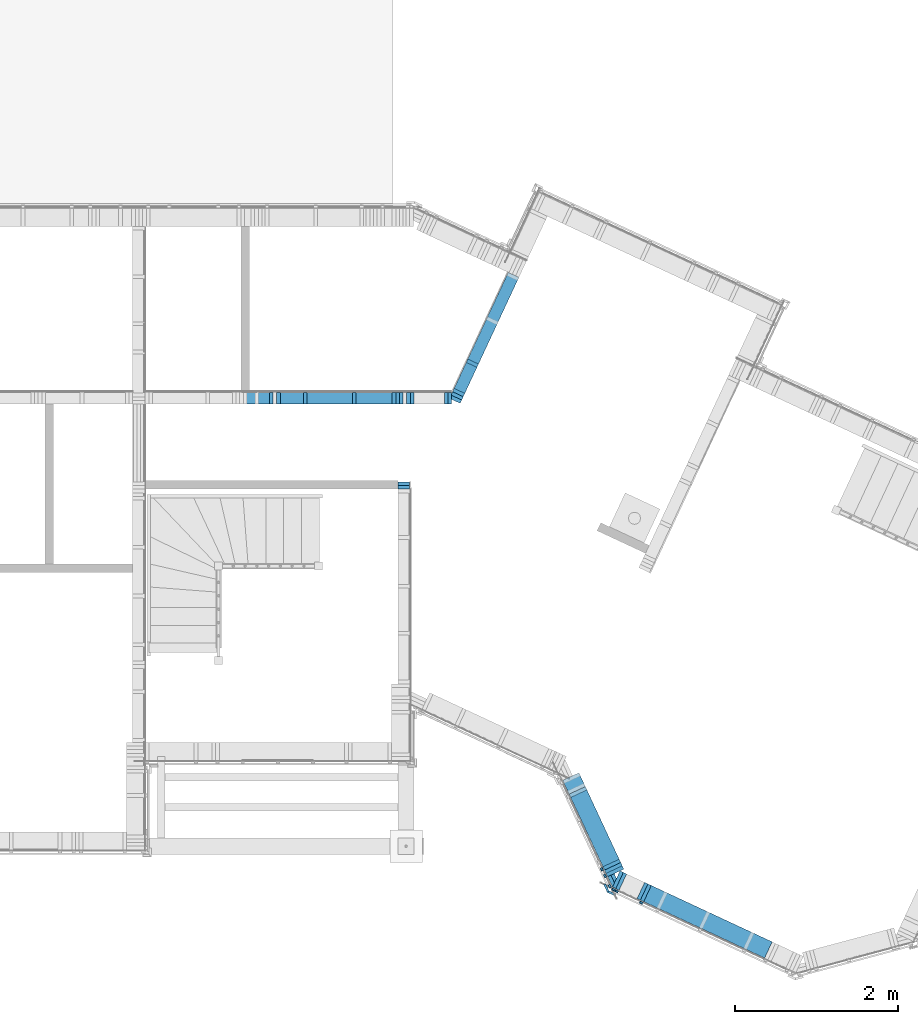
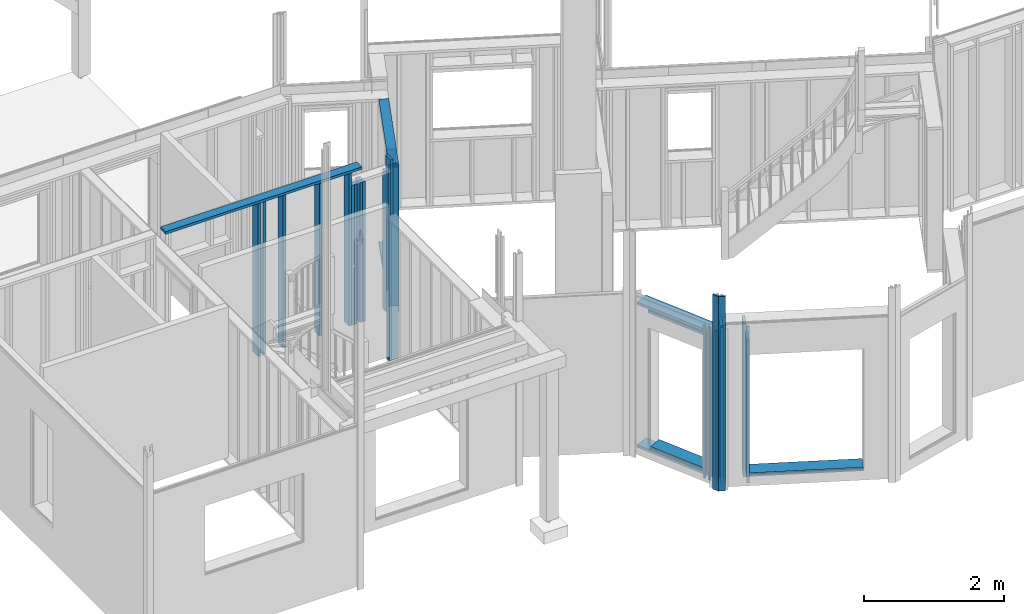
# One storey, part 8 of 34: 45 members.
"""IFC2X3 building model written with IfcOpenShell, lengths in metres."""

from ifc_helpers import new_model, si_unit, direction, frame, origin_with_axes, place, context, subcontext, project, spatial, faceted_brep, material, element, save


model = new_model("IFC2X3")

# Units and contexts
model_context = context("Model", 3, precision=1e-06, world=origin_with_axes(), true_north=direction((0.0, 1.0, 0.0)))
body_context = subcontext(model_context, "Body", "Model", "MODEL_VIEW")
ifc_project = project(units=[si_unit("LENGTHUNIT", "METRE"), si_unit("AREAUNIT", "SQUARE_METRE"), si_unit("VOLUMEUNIT", "CUBIC_METRE"), si_unit("PLANEANGLEUNIT", "RADIAN")], contexts=[model_context])

# Site, building, storey
site_placement = place(None, origin_with_axes())
site = spatial("IfcSite", under=ifc_project, at=site_placement, CompositionType="ELEMENT")
building_placement = place(site_placement, origin_with_axes())
building = spatial("IfcBuilding", under=site, at=building_placement, Name="Building 1", CompositionType="ELEMENT")
storey_placement = place(building_placement, origin_with_axes())
storey = spatial("IfcBuildingStorey", under=building, at=storey_placement, Name="Rez de chaussée", CompositionType="ELEMENT", Elevation=0.0)

# Members
ifc_material_1 = material(Name="Epicéa C24")
member_1_placement = place(storey_placement, frame((6.6235, 4.4675, 2.52), z_axis=(1.0, 0.0, 0.0), x_axis=(0.0, 0.0, -1.0)))
element("IfcMember", 1, at=member_1_placement, inside=storey, material=ifc_material_1, Name="Montant", context=body_context, shape_type="Brep", body=[
    faceted_brep([(2.43, -0.0225, 0.0725), (2.43, 0.0225, 0.0725), (0.0, 0.0225, 0.0725), (0.0, -0.0225, 0.0725), (2.43, -0.0225, -0.0725), (2.43, 0.0225, -0.0725), (0.0, -0.0225, -0.0725), (0.0, 0.0225, -0.0725)], [[[0, 1, 2, 3]], [[4, 5, 1, 0]], [[4, 0, 3, 6]], [[5, 4, 6, 7]], [[1, 5, 7, 2]], [[3, 2, 7, 6]]]),
])
member_2_placement = place(storey_placement, frame((9.0592888, -0.227681, 2.675), z_axis=(-0.9063078, -0.4226183, 0.0), x_axis=(0.0, 0.0, -1.0)))
element("IfcMember", 2, at=member_2_placement, inside=storey, material=ifc_material_1, Name="latte 27/40", context=body_context, shape_type="Brep", body=[
    faceted_brep([(2.67, 0.02, -0.012), (2.67, 0.02, 0.012), (2.67, -0.02, 0.012), (2.67, -0.02, -0.012), (0.0, 0.02, 0.012), (0.0, 0.02, -0.012), (0.0, -0.02, -0.012), (0.0, -0.02, 0.012)], [[[0, 1, 2, 3]], [[4, 5, 6, 7]], [[3, 6, 5, 0]], [[2, 7, 6, 3]], [[1, 4, 7, 2]], [[0, 5, 4, 1]]]),
])
member_3_placement = place(storey_placement, frame((7.2992216, 5.6318983, 2.54), z_axis=(-0.9063078, 0.4226183, 0.0), x_axis=(0.0, 0.0, -1.0)))
element("IfcMember", 3, at=member_3_placement, inside=storey, material=ifc_material_1, Name="Montant", context=body_context, shape_type="Brep", body=[
    faceted_brep([(2.45, -0.0225, -0.0725), (2.45, 0.0225, -0.0725), (2.45, 0.0225, 0.0725), (2.45, -0.0225, 0.0725), (0.0, 0.0225, -0.0725), (0.0, 0.0225, 0.0725), (0.0, -0.0225, -0.0725), (0.0, -0.0225, 0.0725)], [[[0, 1, 2, 3]], [[2, 1, 4, 5]], [[1, 0, 6, 4]], [[0, 3, 7, 6]], [[3, 2, 5, 7]], [[7, 5, 4, 6]]]),
])
member_4_placement = place(storey_placement, frame((8.6768508, 0.9118972, 0.0675), z_axis=(0.9063078, 0.4226183, 0.0), x_axis=(0.4226183, -0.9063078, 0.0)))
element("IfcMember", 4, at=member_4_placement, inside=storey, material=ifc_material_1, Name="Lisse basse", context=body_context, shape_type="Brep", body=[
    faceted_brep([(0.0, -0.0225, -0.11), (1.3069339, -0.0225, -0.11), (1.3069339, -0.0225, 0.11), (0.0, -0.0225, 0.11), (0.0, 0.0225, -0.11), (1.3069339, 0.0225, -0.11), (1.3069339, 0.0225, 0.11), (0.0, 0.0225, 0.11)], [[[0, 1, 2, 3]], [[4, 5, 1, 0]], [[6, 2, 1, 5]], [[7, 6, 5, 4]], [[3, 2, 6, 7]], [[3, 7, 4, 0]]]),
])
member_5_placement = place(storey_placement, frame((7.9737704, 7.0784729, 0.0675), z_axis=(0.9063078, -0.4226183, 0.0), x_axis=(-0.4226183, -0.9063078, 0.0)))
element("IfcMember", 5, at=member_5_placement, inside=storey, material=ifc_material_1, Name="Lisse basse", context=body_context, shape_type="Brep", body=[
    faceted_brep([(0.0, 0.0225, -0.0725), (1.6186186, 0.0225, -0.0725), (1.6186186, -0.0225, -0.0725), (0.0, -0.0225, -0.0725), (1.6186186, 0.0225, 0.0725), (1.6186186, -0.0225, 0.0725), (0.0, -0.0225, 0.0725), (0.0, 0.0225, 0.0725)], [[[0, 1, 2, 3]], [[4, 5, 2, 1]], [[5, 6, 3, 2]], [[7, 4, 1, 0]], [[6, 5, 4, 7]], [[6, 7, 0, 3]]]),
])
ifc_material_2 = material(Name="NH II")
member_6_placement = place(storey_placement, frame((9.17858, -0.5211529, -0.08), z_axis=(0.9063078, -0.4226183, 0.0), x_axis=(0.0, 0.0, 1.0)))
element("IfcMember", 6, at=member_6_placement, inside=storey, material=ifc_material_2, Name="Couvre joint", context=body_context, shape_type="Brep", body=[
    faceted_brep([(0.0, -0.0135, -0.0426728), (0.0, 0.0135, -0.0525), (3.4036496, 0.0135, -0.0525), (3.4036496, -0.0135, -0.0426728), (0.0, -0.0135, 0.0525), (0.0, 0.0135, 0.0525), (3.4036496, 0.0135, 0.0525), (3.4036496, -0.0135, 0.0525)], [[[0, 1, 2, 3]], [[1, 0, 4, 5]], [[3, 2, 6, 7]], [[0, 3, 7, 4]], [[6, 5, 4, 7]], [[2, 1, 5, 6]]]),
])
member_7_placement = place(storey_placement, frame((11.1063082, -1.2198042, 0.1125), z_axis=(-0.4226183, -0.9063078, 0.0), x_axis=(-0.9063078, 0.4226183, 0.0)))
element("IfcMember", 7, at=member_7_placement, inside=storey, material=ifc_material_1, Name="Montant", context=body_context, shape_type="Brep", body=[
    faceted_brep([(0.0, -0.0225, 0.11), (1.64, -0.0225, 0.11), (1.64, 0.0225, 0.11), (0.0, 0.0225, 0.11), (1.64, -0.0225, -0.11), (1.64, 0.0225, -0.11), (0.0, -0.0225, -0.11), (0.0, 0.0225, -0.11)], [[[0, 1, 2, 3]], [[1, 4, 5, 2]], [[5, 4, 6, 7]], [[4, 1, 0, 6]], [[7, 6, 0, 3]], [[2, 5, 7, 3]]]),
])
member_8_placement = place(storey_placement, frame((6.5035, 5.5627176, 2.76), z_axis=(0.0, 1.0, 0.0), x_axis=(0.0, 0.0, -1.0)))
element("IfcMember", 8, at=member_8_placement, inside=storey, material=ifc_material_1, Name="Montant", context=body_context, shape_type="Brep", body=[
    faceted_brep([(2.67, -0.0225, -0.0725), (2.67, 0.0225, -0.0725), (2.67, 0.0225, 0.0725), (2.67, -0.0225, 0.0725), (0.0, -0.0225, 0.0725), (0.0, -0.0225, -0.0725), (0.0, 0.0225, -0.0725), (0.0, 0.0225, 0.0725)], [[[0, 1, 2, 3]], [[0, 3, 4, 5]], [[1, 0, 5, 6]], [[2, 1, 6, 7]], [[3, 2, 7, 4]], [[4, 7, 6, 5]]]),
])
member_9_placement = place(storey_placement, frame((6.5485, 5.5627176, 2.54), z_axis=(0.0, 1.0, 0.0), x_axis=(0.0, 0.0, -1.0)))
element("IfcMember", 9, at=member_9_placement, inside=storey, material=ifc_material_1, Name="Montant", context=body_context, shape_type="Brep", body=[
    faceted_brep([(2.45, -0.0225, -0.0725), (2.45, 0.0225, -0.0725), (2.45, 0.0225, 0.0725), (2.45, -0.0225, 0.0725), (0.0, -0.0225, 0.0725), (0.0, -0.0225, -0.0725), (0.0, 0.0225, -0.0725), (0.0, 0.0225, 0.0725)], [[[0, 1, 2, 3]], [[0, 3, 4, 5]], [[1, 0, 5, 6]], [[2, 1, 6, 7]], [[3, 2, 7, 4]], [[4, 7, 6, 5]]]),
])
member_10_placement = place(storey_placement, frame((9.1153411, -0.4579141, -0.08), z_axis=(0.4226183, -0.9063078, 0.0), x_axis=(0.0, 0.0, 1.0)))
element("IfcMember", 10, at=member_10_placement, inside=storey, material=ifc_material_2, Name="Couvre joint", context=body_context, shape_type="Brep", body=[
    faceted_brep([(0.0, 0.0135, 0.0525), (0.0, -0.0135, 0.0426728), (3.4036496, -0.0135, 0.0426728), (3.4036496, 0.0135, 0.0525), (3.4036496, -0.0135, -0.0525), (3.4036496, 0.0135, -0.0525), (0.0, -0.0135, -0.0525), (0.0, 0.0135, -0.0525)], [[[0, 1, 2, 3]], [[3, 2, 4, 5]], [[2, 1, 6, 4]], [[1, 0, 7, 6]], [[4, 6, 7, 5]], [[5, 7, 0, 3]]]),
])
member_11_placement = place(storey_placement, frame((9.2398652, -0.4984236, 2.745), z_axis=(-0.4226183, -0.9063078, 0.0), x_axis=(0.0, 0.0, -1.0)))
element("IfcMember", 11, at=member_11_placement, inside=storey, material=ifc_material_1, Name="latte 27/40", context=body_context, shape_type="Brep", body=[
    faceted_brep([(0.0, 0.02, 0.012), (0.0, -0.02, 0.012), (2.74, -0.02, 0.012), (2.74, 0.02, 0.012), (2.74, -0.02, -0.012), (2.74, 0.02, -0.012), (0.0, -0.02, -0.012), (0.0, 0.02, -0.012)], [[[0, 1, 2, 3]], [[3, 2, 4, 5]], [[2, 1, 6, 4]], [[1, 0, 7, 6]], [[0, 3, 5, 7]], [[6, 7, 5, 4]]]),
])
member_12_placement = place(storey_placement, frame((7.4674738, 5.9927162, 2.54), z_axis=(-0.9063078, 0.4226183, 0.0), x_axis=(0.0, 0.0, -1.0)))
element("IfcMember", 12, at=member_12_placement, inside=storey, material=ifc_material_1, Name="Montant", context=body_context, shape_type="Brep", body=[
    faceted_brep([(2.45, -0.0225, -0.0725), (2.45, 0.0225, -0.0725), (2.45, 0.0225, 0.0725), (2.45, -0.0225, 0.0725), (0.0, 0.0225, -0.0725), (0.0, 0.0225, 0.0725), (0.0, -0.0225, -0.0725), (0.0, -0.0225, 0.0725)], [[[0, 1, 2, 3]], [[2, 1, 4, 5]], [[1, 0, 6, 4]], [[0, 3, 7, 6]], [[3, 2, 5, 7]], [[7, 5, 4, 6]]]),
])
member_13_placement = place(storey_placement, frame((7.265257, 5.5484322, 0.045), z_axis=(-0.9063078, 0.4226183, 0.0), x_axis=(0.0, 0.0, 1.0)))
element("IfcMember", 13, at=member_13_placement, inside=storey, material=ifc_material_1, Name="Montant", context=body_context, shape_type="Brep", body=[
    faceted_brep([(2.54, -0.0225, 0.0470242), (0.0, -0.0225, 0.0470242), (0.0, -0.0225, -0.0680081), (2.54, -0.0225, -0.0680081), (0.0, 0.0225, -0.0680081), (2.54, 0.0225, -0.0680081), (0.0, 0.0225, 0.0680081), (2.54, 0.0225, 0.0680081)], [[[0, 1, 2, 3]], [[2, 4, 5, 3]], [[6, 7, 5, 4]], [[7, 0, 3, 5]], [[6, 1, 0, 7]], [[1, 6, 4, 2]]]),
])
member_14_placement = place(storey_placement, frame((9.542518, -0.6395529, 2.745), z_axis=(-0.4226183, -0.9063078, 0.0), x_axis=(0.0, 0.0, -1.0)))
element("IfcMember", 14, at=member_14_placement, inside=storey, material=ifc_material_1, Name="latte 27/40", context=body_context, shape_type="Brep", body=[
    faceted_brep([(0.0, 0.02, 0.012), (0.0, -0.02, 0.012), (2.74, -0.02, 0.012), (2.74, 0.02, 0.012), (2.74, -0.02, -0.012), (2.74, 0.02, -0.012), (0.0, -0.02, -0.012), (0.0, 0.02, -0.012)], [[[0, 1, 2, 3]], [[3, 2, 4, 5]], [[2, 1, 6, 4]], [[1, 0, 7, 6]], [[0, 3, 5, 7]], [[6, 7, 5, 4]]]),
])
member_15_placement = place(storey_placement, frame((9.5587876, -0.4981835, 2.76), z_axis=(-0.4226183, -0.9063078, 0.0), x_axis=(0.0, 0.0, -1.0)))
element("IfcMember", 15, at=member_15_placement, inside=storey, material=ifc_material_1, Name="Montant", context=body_context, shape_type="Brep", body=[
    faceted_brep([(2.67, -0.0225, -0.11), (2.67, 0.0225, -0.11), (2.67, 0.0225, 0.11), (2.67, -0.0225, 0.11), (0.0, -0.0225, -0.11), (0.0, -0.0225, 0.11), (0.0, 0.0225, -0.11), (0.0, 0.0225, 0.11)], [[[0, 1, 2, 3]], [[4, 0, 3, 5]], [[1, 0, 4, 6]], [[2, 1, 6, 7]], [[3, 2, 7, 5]], [[5, 7, 6, 4]]]),
])
member_16_placement = place(storey_placement, frame((11.1063082, -1.2198042, 0.1435), z_axis=(-0.4226183, -0.9063078, 0.0), x_axis=(-0.9063078, 0.4226183, 0.0)))
element("IfcMember", 16, at=member_16_placement, inside=storey, material=ifc_material_1, Name="Montant", context=body_context, shape_type="Brep", body=[
    faceted_brep([(0.0, -0.0085, 0.11), (1.64, -0.0085, 0.11), (1.64, 0.0085, 0.11), (0.0, 0.0085, 0.11), (0.0, -0.0085, -0.11), (1.64, -0.0085, -0.11), (0.0, 0.0085, -0.11), (1.64, 0.0085, -0.11)], [[[0, 1, 2, 3]], [[0, 4, 5, 1]], [[4, 0, 3, 6]], [[1, 5, 7, 2]], [[2, 7, 6, 3]], [[5, 4, 6, 7]]]),
])
member_17_placement = place(storey_placement, frame((9.5995715, -0.5172014, 2.475), z_axis=(-0.4226183, -0.9063078, 0.0), x_axis=(0.0, 0.0, -1.0)))
element("IfcMember", 17, at=member_17_placement, inside=storey, material=ifc_material_1, Name="Montant", context=body_context, shape_type="Brep", body=[
    faceted_brep([(2.385, -0.0225, -0.11), (2.385, 0.0225, -0.11), (2.385, 0.0225, 0.11), (2.385, -0.0225, 0.11), (0.0, -0.0225, 0.11), (0.0, -0.0225, -0.11), (0.0, 0.0225, -0.11), (0.0, 0.0225, 0.11)], [[[0, 1, 2, 3]], [[0, 3, 4, 5]], [[1, 0, 5, 6]], [[2, 1, 6, 7]], [[3, 2, 7, 4]], [[4, 7, 6, 5]]]),
])
member_18_placement = place(storey_placement, frame((6.683, 5.5627176, 2.54), z_axis=(0.0, 1.0, 0.0), x_axis=(0.0, 0.0, -1.0)))
element("IfcMember", 18, at=member_18_placement, inside=storey, material=ifc_material_1, Name="Montant", context=body_context, shape_type="Brep", body=[
    faceted_brep([(2.45, -0.0225, -0.0725), (2.45, 0.0225, -0.0725), (2.45, 0.0225, 0.0725), (2.45, -0.0225, 0.0725), (0.0, -0.0225, 0.0725), (0.0, -0.0225, -0.0725), (0.0, 0.0225, -0.0725), (0.0, 0.0225, 0.0725)], [[[0, 1, 2, 3]], [[0, 3, 4, 5]], [[1, 0, 5, 6]], [[2, 1, 6, 7]], [[3, 2, 7, 4]], [[4, 7, 6, 5]]]),
])
member_19_placement = place(storey_placement, frame((9.0973244, -0.3092487, 2.675), z_axis=(-0.9063078, -0.4226183, 0.0), x_axis=(0.0, 0.0, -1.0)))
element("IfcMember", 19, at=member_19_placement, inside=storey, material=ifc_material_1, Name="latte 27/40", context=body_context, shape_type="Brep", body=[
    faceted_brep([(2.67, 0.02, -0.012), (2.67, 0.02, 0.012), (2.67, -0.02, 0.012), (2.67, -0.02, -0.012), (0.0, 0.02, 0.012), (0.0, 0.02, -0.012), (0.0, -0.02, -0.012), (0.0, -0.02, 0.012)], [[[0, 1, 2, 3]], [[4, 5, 6, 7]], [[3, 6, 5, 0]], [[2, 7, 6, 3]], [[1, 4, 7, 2]], [[0, 5, 4, 1]]]),
])
member_20_placement = place(storey_placement, frame((9.1797649, -0.3736483, 0.045), z_axis=(0.4226183, -0.9063078, 0.0), x_axis=(0.0, 0.0, 1.0)))
element("IfcMember", 20, at=member_20_placement, inside=storey, material=ifc_material_1, Name="Montant", context=body_context, shape_type="Brep", body=[
    faceted_brep([(2.54, -0.0225, 0.0329472), (0.0, -0.0225, 0.0329472), (0.0, -0.0225, -0.0707066), (2.54, -0.0225, -0.0707066), (0.0, 0.0225, -0.0707066), (2.54, 0.0225, -0.0707066), (0.0, 0.0225, 0.0707066), (2.54, 0.0225, 0.0707066)], [[[0, 1, 2, 3]], [[4, 5, 3, 2]], [[6, 7, 5, 4]], [[1, 6, 4, 2]], [[0, 7, 6, 1]], [[7, 0, 3, 5]]]),
])
member_21_placement = place(storey_placement, frame((7.9737704, 7.0784729, 2.5625), z_axis=(0.9063078, -0.4226183, 0.0), x_axis=(-0.4226183, -0.9063078, 0.0)))
element("IfcMember", 21, at=member_21_placement, inside=storey, material=ifc_material_1, Name="Montant", context=body_context, shape_type="Brep", body=[
    faceted_brep([(0.0, 0.0225, -0.0725), (1.6186186, 0.0225, -0.0725), (1.6186186, -0.0225, -0.0725), (0.0, -0.0225, -0.0725), (1.6186186, 0.0225, 0.0725), (1.6186186, -0.0225, 0.0725), (0.0, -0.0225, 0.0725), (0.0, 0.0225, 0.0725)], [[[0, 1, 2, 3]], [[4, 5, 2, 1]], [[5, 6, 3, 2]], [[7, 4, 1, 0]], [[6, 5, 4, 7]], [[6, 7, 0, 3]]]),
])
member_22_placement = place(storey_placement, frame((8.7748703, 0.7016937, 0.1125), z_axis=(-0.9063078, -0.4226183, 0.0), x_axis=(0.4226183, -0.9063078, 0.0)))
element("IfcMember", 22, at=member_22_placement, inside=storey, material=ifc_material_1, Name="Montant", context=body_context, shape_type="Brep", body=[
    faceted_brep([(0.0, -0.0225, 0.11), (0.94, -0.0225, 0.11), (0.94, 0.0225, 0.11), (0.0, 0.0225, 0.11), (0.0, 0.0225, -0.11), (0.0, -0.0225, -0.11), (0.94, 0.0225, -0.11), (0.94, -0.0225, -0.11)], [[[0, 1, 2, 3]], [[3, 4, 5, 0]], [[5, 4, 6, 7]], [[4, 3, 2, 6]], [[7, 6, 2, 1]], [[0, 5, 7, 1]]]),
])
member_23_placement = place(storey_placement, frame((6.6235, 4.5125, 2.52), z_axis=(1.0, 0.0, 0.0), x_axis=(0.0, 0.0, -1.0)))
element("IfcMember", 23, at=member_23_placement, inside=storey, material=ifc_material_1, Name="Montant", context=body_context, shape_type="Brep", body=[
    faceted_brep([(2.43, -0.0225, 0.0725), (2.43, 0.0225, 0.0725), (0.0, 0.0225, 0.0725), (0.0, -0.0225, 0.0725), (2.43, -0.0225, -0.0725), (2.43, 0.0225, -0.0725), (0.0, -0.0225, -0.0725), (0.0, 0.0225, -0.0725)], [[[0, 1, 2, 3]], [[4, 5, 1, 0]], [[4, 0, 3, 6]], [[5, 4, 6, 7]], [[1, 5, 7, 2]], [[3, 2, 7, 6]]]),
])
member_24_placement = place(storey_placement, frame((6.696, 5.5627176, 2.7825), z_axis=(0.0, -1.0, 0.0), x_axis=(-1.0, 0.0, 0.0)))
element("IfcMember", 24, at=member_24_placement, inside=storey, material=ifc_material_1, Name="Montant", context=body_context, shape_type="Brep", body=[
    faceted_brep([(0.0, -0.0225, -0.0725), (0.0, -0.0225, 0.0725), (0.0, 0.0225, 0.0725), (0.0, 0.0225, -0.0725), (3.248, -0.0225, 0.0725), (3.248, 0.0225, 0.0725), (3.248, -0.0225, -0.0725), (3.248, 0.0225, -0.0725)], [[[0, 1, 2, 3]], [[2, 1, 4, 5]], [[1, 0, 6, 4]], [[6, 7, 5, 4]], [[0, 3, 7, 6]], [[3, 2, 5, 7]]]),
])
member_25_placement = place(storey_placement, frame((7.1906297, 5.5627176, 2.76), z_axis=(0.0, 1.0, 0.0), x_axis=(0.0, 0.0, -1.0)))
element("IfcMember", 25, at=member_25_placement, inside=storey, material=ifc_material_1, Name="Montant", context=body_context, shape_type="Brep", body=[
    faceted_brep([(2.67, -0.0225, -0.0725), (2.67, 0.0225, -0.0725), (2.67, 0.0225, 0.0725), (2.67, -0.0225, 0.0725), (0.0, -0.0225, 0.0725), (0.0, -0.0225, -0.0725), (0.0, 0.0225, -0.0725), (0.0, 0.0225, 0.0725)], [[[0, 1, 2, 3]], [[0, 3, 4, 5]], [[1, 0, 5, 6]], [[2, 1, 6, 7]], [[3, 2, 7, 4]], [[4, 7, 6, 5]]]),
])
member_26_placement = place(storey_placement, frame((7.2802038, 5.5911144, 0.045), z_axis=(-0.9063078, 0.4226183, 0.0), x_axis=(0.0, 0.0, 1.0)))
element("IfcMember", 26, at=member_26_placement, inside=storey, material=ifc_material_1, Name="Montant", context=body_context, shape_type="Brep", body=[
    faceted_brep([(2.54, -0.0225, 0.0635162), (0.0, -0.0225, 0.0635162), (0.0, -0.0225, -0.0725), (2.54, -0.0225, -0.0725), (0.0, 0.0225, -0.0725), (2.54, 0.0225, -0.0725), (0.0, 0.0225, 0.0725), (2.54, 0.0225, 0.0725), (0.0, -0.0032341, 0.0725), (2.54, -0.0032341, 0.0725)], [[[0, 1, 2, 3]], [[2, 4, 5, 3]], [[4, 6, 7, 5]], [[8, 9, 7, 6]], [[9, 0, 3, 5, 7]], [[8, 1, 0, 9]], [[1, 8, 6, 4, 2]]]),
])
member_27_placement = place(storey_placement, frame((9.2013471, -0.4804623, 2.745), z_axis=(-0.4226183, -0.9063078, 0.0), x_axis=(0.0, 0.0, -1.0)))
element("IfcMember", 27, at=member_27_placement, inside=storey, material=ifc_material_1, Name="latte chantier", context=body_context, shape_type="Brep", body=[
    faceted_brep([(0.0, 0.02, 0.012), (0.0, -0.02, 0.012), (2.74, -0.02, 0.012), (2.74, 0.02, 0.012), (2.74, -0.02, -0.012), (2.74, 0.02, -0.012), (0.0, -0.02, -0.012), (0.0, 0.02, -0.012)], [[[0, 1, 2, 3]], [[3, 2, 4, 5]], [[2, 1, 6, 4]], [[1, 0, 7, 6]], [[0, 3, 5, 7]], [[6, 7, 5, 4]]]),
])
member_28_placement = place(storey_placement, frame((9.2125698, -0.3375196, 0.045), z_axis=(0.4226183, -0.9063078, 0.0), x_axis=(0.0, 0.0, 1.0)))
element("IfcMember", 28, at=member_28_placement, inside=storey, material=ifc_material_1, Name="Montant", context=body_context, shape_type="Brep", body=[
    faceted_brep([(2.54, -0.0225, 0.0140674), (0.0, -0.0225, 0.014), (0.0, -0.0225, -0.0518269), (2.54, -0.0225, -0.0518269), (0.0, 0.0225, -0.0518269), (2.54, 0.0225, -0.0518269), (0.0, 0.0225, 0.0518269), (2.54, 0.0225, 0.0518269)], [[[0, 1, 2, 3]], [[4, 5, 3, 2]], [[6, 7, 5, 4]], [[1, 6, 4, 2]], [[0, 7, 6, 1]], [[7, 0, 3, 5]]]),
])
member_29_placement = place(storey_placement, frame((9.219676, -0.2521953, 2.54), z_axis=(-0.9063078, -0.4226183, 0.0), x_axis=(0.0, 0.0, -1.0)))
element("IfcMember", 29, at=member_29_placement, inside=storey, material=ifc_material_1, Name="Montant", context=body_context, shape_type="Brep", body=[
    faceted_brep([(2.45, -0.0225, -0.11), (2.45, 0.0225, -0.11), (2.45, 0.0225, 0.11), (2.45, -0.0225, 0.11), (0.0, -0.0225, 0.11), (0.0, -0.0225, -0.11), (0.0, 0.0225, -0.11), (0.0, 0.0225, 0.11)], [[[0, 1, 2, 3]], [[0, 3, 4, 5]], [[1, 0, 5, 6]], [[2, 1, 6, 7]], [[3, 2, 7, 4]], [[4, 7, 6, 5]]]),
])
member_30_placement = place(storey_placement, frame((9.2969187, -0.376072, 2.76), z_axis=(-0.4226183, -0.9063078, 0.0), x_axis=(0.0, 0.0, -1.0)))
element("IfcMember", 30, at=member_30_placement, inside=storey, material=ifc_material_1, Name="Montant", context=body_context, shape_type="Brep", body=[
    faceted_brep([(2.67, -0.0225, -0.11), (2.67, 0.0225, -0.11), (2.67, 0.0225, 0.11), (2.67, -0.0225, 0.11), (0.0, -0.0225, -0.11), (0.0, -0.0225, 0.11), (0.0, 0.0225, -0.11), (0.0, 0.0225, 0.11)], [[[0, 1, 2, 3]], [[4, 0, 3, 5]], [[1, 0, 4, 6]], [[2, 1, 6, 7]], [[3, 2, 7, 5]], [[5, 7, 6, 4]]]),
])
member_31_placement = place(storey_placement, frame((9.2006582, -0.2114114, 2.54), z_axis=(-0.9063078, -0.4226183, 0.0), x_axis=(0.0, 0.0, -1.0)))
element("IfcMember", 31, at=member_31_placement, inside=storey, material=ifc_material_1, Name="Montant", context=body_context, shape_type="Brep", body=[
    faceted_brep([(2.45, -0.0225, -0.11), (2.45, 0.0225, -0.11), (2.45, 0.0225, 0.11), (2.45, -0.0225, 0.11), (0.0, -0.0225, 0.11), (0.0, -0.0225, -0.11), (0.0, 0.0225, -0.11), (0.0, 0.0225, 0.11)], [[[0, 1, 2, 3]], [[0, 3, 4, 5]], [[1, 0, 5, 6]], [[2, 1, 6, 7]], [[3, 2, 7, 4]], [[4, 7, 6, 5]]]),
])
member_32_placement = place(storey_placement, frame((9.1816403, -0.1706276, 2.475), z_axis=(-0.9063078, -0.4226183, 0.0), x_axis=(0.0, 0.0, -1.0)))
element("IfcMember", 32, at=member_32_placement, inside=storey, material=ifc_material_1, Name="Montant", context=body_context, shape_type="Brep", body=[
    faceted_brep([(2.385, -0.0225, -0.11), (2.385, 0.0225, -0.11), (2.385, 0.0225, 0.11), (2.385, -0.0225, 0.11), (0.0, 0.0225, -0.11), (0.0, 0.0225, 0.11), (0.0, -0.0225, -0.11), (0.0, -0.0225, 0.11)], [[[0, 1, 2, 3]], [[2, 1, 4, 5]], [[1, 0, 6, 4]], [[0, 3, 7, 6]], [[3, 2, 5, 7]], [[7, 5, 4, 6]]]),
])
member_33_placement = place(storey_placement, frame((8.7558524, 0.7424775, 2.53), z_axis=(-0.9063078, -0.4226183, 0.0), x_axis=(0.4226183, -0.9063078, 0.0)))
element("IfcMember", 33, at=member_33_placement, inside=storey, material=ifc_material_1, Name="Montant", context=body_context, shape_type="Brep", body=[
    faceted_brep([(1.03, -0.01, -0.11), (1.03, -0.01, 0.11), (0.0, -0.01, 0.11), (0.0, -0.01, -0.11), (1.03, 0.01, 0.11), (0.0, 0.01, 0.11), (1.03, 0.01, -0.11), (0.0, 0.01, -0.11)], [[[0, 1, 2, 3]], [[2, 1, 4, 5]], [[1, 0, 6, 4]], [[4, 6, 7, 5]], [[3, 2, 5, 7]], [[0, 3, 7, 6]]]),
])
member_34_placement = place(storey_placement, frame((8.7748703, 0.7016937, 0.1435), z_axis=(-0.9063078, -0.4226183, 0.0), x_axis=(0.4226183, -0.9063078, 0.0)))
element("IfcMember", 34, at=member_34_placement, inside=storey, material=ifc_material_1, Name="Montant", context=body_context, shape_type="Brep", body=[
    faceted_brep([(0.0, -0.0085, 0.11), (0.94, -0.0085, 0.11), (0.94, 0.0085, 0.11), (0.0, 0.0085, 0.11), (0.94, 0.0085, -0.11), (0.0, 0.0085, -0.11), (0.0, -0.0085, -0.11), (0.94, -0.0085, -0.11)], [[[0, 1, 2, 3]], [[2, 4, 5, 3]], [[3, 5, 6, 0]], [[5, 4, 7, 6]], [[4, 2, 1, 7]], [[0, 6, 7, 1]]]),
])
for number, where, z_axis, x_axis, name in (
    (35, (6.0151297, 5.5627176, 2.76), (0.0, 1.0, 0.0), (0.0, 0.0, -1.0), "Montant"),
    (36, (5.4151297, 5.5627176, 2.76), (0.0, 1.0, 0.0), (0.0, 0.0, -1.0), "Montant"),
):
    element("IfcMember", number, at=place(storey_placement, frame(where, z_axis=z_axis, x_axis=x_axis)), inside=storey, material=ifc_material_1, Name=name, context=body_context, shape_type="Brep", body=[
        faceted_brep([(2.67, -0.0225, -0.0725), (2.67, 0.0225, -0.0725), (2.67, 0.0225, 0.0725), (2.67, -0.0225, 0.0725), (0.0, -0.0225, 0.0725), (0.0, -0.0225, -0.0725), (0.0, 0.0225, -0.0725), (0.0, 0.0225, 0.0725)], [[[0, 1, 2, 3]], [[0, 3, 4, 5]], [[1, 0, 5, 6]], [[2, 1, 6, 7]], [[3, 2, 7, 4]], [[4, 7, 6, 5]]]),
    ])
member_35_placement = place(storey_placement, frame((8.6768508, 0.9118972, 2.5625), z_axis=(0.9063078, 0.4226183, 0.0), x_axis=(0.4226183, -0.9063078, 0.0)))
element("IfcMember", 37, at=member_35_placement, inside=storey, material=ifc_material_1, Name="Montant", context=body_context, shape_type="Brep", body=[
    faceted_brep([(0.0, -0.0225, -0.11), (1.3069339, -0.0225, -0.11), (1.3069339, -0.0225, 0.11), (0.0, -0.0225, 0.11), (0.0, 0.0225, -0.11), (1.3069339, 0.0225, -0.11), (1.3069339, 0.0225, 0.11), (0.0, 0.0225, 0.11)], [[[0, 1, 2, 3]], [[4, 5, 1, 0]], [[6, 2, 1, 5]], [[7, 6, 5, 4]], [[3, 2, 6, 7]], [[3, 7, 4, 0]]]),
])
member_36_placement = place(storey_placement, frame((6.5935, 5.5627176, 2.54), z_axis=(0.0, 1.0, 0.0), x_axis=(0.0, 0.0, -1.0)))
element("IfcMember", 38, at=member_36_placement, inside=storey, material=ifc_material_1, Name="Montant", context=body_context, shape_type="Brep", body=[
    faceted_brep([(2.45, -0.0225, -0.0725), (2.45, 0.0225, -0.0725), (2.45, 0.0225, 0.0725), (2.45, -0.0225, 0.0725), (0.0, -0.0225, 0.0725), (0.0, -0.0225, -0.0725), (0.0, 0.0225, -0.0725), (0.0, 0.0225, 0.0725)], [[[0, 1, 2, 3]], [[0, 3, 4, 5]], [[1, 0, 5, 6]], [[2, 1, 6, 7]], [[3, 2, 7, 4]], [[4, 7, 6, 5]]]),
])
member_37_placement = place(storey_placement, frame((9.2561348, -0.3570542, 2.76), z_axis=(-0.4226183, -0.9063078, 0.0), x_axis=(0.0, 0.0, -1.0)))
element("IfcMember", 39, at=member_37_placement, inside=storey, material=ifc_material_1, Name="Montant", context=body_context, shape_type="Brep", body=[
    faceted_brep([(2.67, -0.0225, -0.11), (2.67, 0.0225, -0.11), (2.67, 0.0225, 0.11), (2.67, -0.0225, 0.11), (0.0, -0.0225, -0.11), (0.0, -0.0225, 0.11), (0.0, 0.0225, -0.11), (0.0, 0.0225, 0.11)], [[[0, 1, 2, 3]], [[4, 0, 3, 5]], [[1, 0, 4, 6]], [[2, 1, 6, 7]], [[3, 2, 7, 5]], [[5, 7, 6, 4]]]),
])
for number, where, z_axis, x_axis, name in (
    (40, (6.728, 5.5627176, 2.54), (0.0, 1.0, 0.0), (0.0, 0.0, -1.0), "Montant"),
    (41, (7.1456297, 5.5627176, 2.54), (0.0, 1.0, 0.0), (0.0, 0.0, -1.0), "Montant"),
):
    element("IfcMember", number, at=place(storey_placement, frame(where, z_axis=z_axis, x_axis=x_axis)), inside=storey, material=ifc_material_1, Name=name, context=body_context, shape_type="Brep", body=[
        faceted_brep([(2.45, -0.0225, -0.0725), (2.45, 0.0225, -0.0725), (2.45, 0.0225, 0.0725), (2.45, -0.0225, 0.0725), (0.0, -0.0225, 0.0725), (0.0, -0.0225, -0.0725), (0.0, 0.0225, -0.0725), (0.0, 0.0225, 0.0725)], [[[0, 1, 2, 3]], [[0, 3, 4, 5]], [[1, 0, 5, 6]], [[2, 1, 6, 7]], [[3, 2, 7, 4]], [[4, 7, 6, 5]]]),
    ])
member_38_placement = place(storey_placement, frame((8.7558524, 0.7424775, 2.4975), z_axis=(-0.9063078, -0.4226183, 0.0), x_axis=(0.4226183, -0.9063078, 0.0)))
element("IfcMember", 42, at=member_38_placement, inside=storey, material=ifc_material_1, Name="Montant", context=body_context, shape_type="Brep", body=[
    faceted_brep([(1.03, -0.0225, -0.11), (1.03, 0.0225, -0.11), (1.03, 0.0225, 0.11), (1.03, -0.0225, 0.11), (0.0, 0.0225, 0.11), (0.0, -0.0225, 0.11), (0.0, 0.0225, -0.11), (0.0, -0.0225, -0.11)], [[[0, 1, 2, 3]], [[3, 2, 4, 5]], [[2, 1, 6, 4]], [[6, 7, 5, 4]], [[0, 3, 5, 7]], [[1, 0, 7, 6]]]),
])
for number, where, z_axis, x_axis, name in (
    (43, (4.9951817, 5.5627176, 2.76), (0.0, 1.0, 0.0), (0.0, 0.0, -1.0), "Montant"),
    (44, (5.0851817, 5.5627176, 2.76), (0.0, 1.0, 0.0), (0.0, 0.0, -1.0), "Montant"),
):
    element("IfcMember", number, at=place(storey_placement, frame(where, z_axis=z_axis, x_axis=x_axis)), inside=storey, material=ifc_material_1, Name=name, context=body_context, shape_type="Brep", body=[
        faceted_brep([(2.67, -0.0225, -0.0725), (2.67, 0.0225, -0.0725), (2.67, 0.0225, 0.0725), (2.67, -0.0225, 0.0725), (0.0, -0.0225, 0.0725), (0.0, -0.0225, -0.0725), (0.0, 0.0225, -0.0725), (0.0, 0.0225, 0.0725)], [[[0, 1, 2, 3]], [[0, 3, 4, 5]], [[1, 0, 5, 6]], [[2, 1, 6, 7]], [[3, 2, 7, 4]], [[4, 7, 6, 5]]]),
    ])
member_39_placement = place(storey_placement, frame((9.1560317, -0.4351469, 2.675), z_axis=(-0.9063078, -0.4226183, 0.0), x_axis=(0.0, 0.0, -1.0)))
element("IfcMember", 45, at=member_39_placement, inside=storey, material=ifc_material_1, Name="latte chantier", context=body_context, shape_type="Brep", body=[
    faceted_brep([(2.67, 0.02, -0.012), (2.67, 0.02, 0.012), (2.67, -0.02, 0.012), (2.67, -0.02, -0.012), (0.0, 0.02, 0.012), (0.0, 0.02, -0.012), (0.0, -0.02, -0.012), (0.0, -0.02, 0.012)], [[[0, 1, 2, 3]], [[4, 5, 6, 7]], [[3, 6, 5, 0]], [[2, 7, 6, 3]], [[1, 4, 7, 2]], [[0, 5, 4, 1]]]),
])

save(model, "model.ifc")
